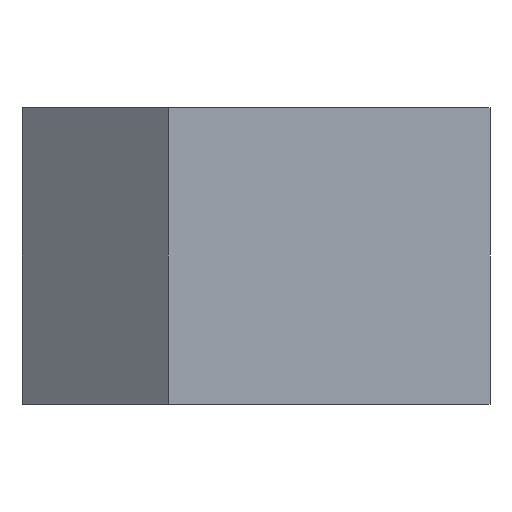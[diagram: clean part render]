
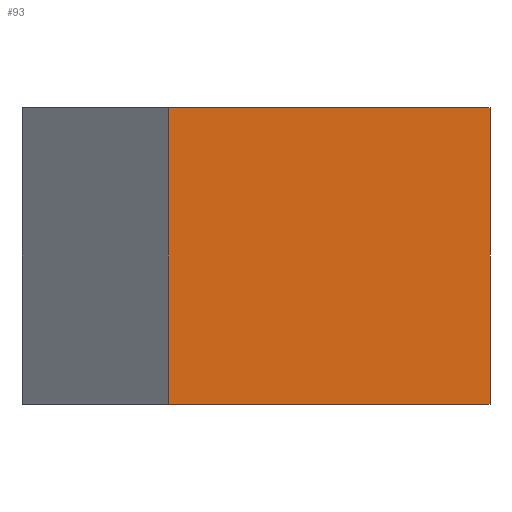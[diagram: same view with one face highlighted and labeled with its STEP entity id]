
A CAD part, left-side view. The second image highlights one B-rep face of the part: STEP entity #93.
In plain terms, the highlighted planar face has unit normal (-1, 0, 0).
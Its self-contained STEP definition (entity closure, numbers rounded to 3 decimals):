
#93=ADVANCED_FACE('',(#153),#154,.T.);
#153=FACE_OUTER_BOUND('',#225,.T.);
#154=PLANE('',#226);
#225=EDGE_LOOP('',(#420,#421,#422,#423));
#226=AXIS2_PLACEMENT_3D('',#424,#425,#426);
#420=ORIENTED_EDGE('',*,*,#585,.T.);
#421=ORIENTED_EDGE('',*,*,#566,.F.);
#422=ORIENTED_EDGE('',*,*,#586,.F.);
#423=ORIENTED_EDGE('',*,*,#583,.T.);
#424=CARTESIAN_POINT('',(-300.0,82.5,0.0));
#425=DIRECTION('',(-1.0,-0.0,0.0));
#426=DIRECTION('',(0.0,-1.0,-0.0));
#566=EDGE_CURVE('',#676,#671,#678,.T.);
#583=EDGE_CURVE('',#706,#704,#707,.T.);
#585=EDGE_CURVE('',#704,#671,#709,.T.);
#586=EDGE_CURVE('',#706,#676,#710,.T.);
#671=VERTEX_POINT('',#835);
#676=VERTEX_POINT('',#842);
#678=LINE('',#845,#846);
#704=VERTEX_POINT('',#887);
#706=VERTEX_POINT('',#890);
#707=LINE('',#891,#892);
#709=LINE('',#895,#896);
#710=LINE('',#897,#898);
#835=CARTESIAN_POINT('',(-300.0,165.0,152.0));
#842=CARTESIAN_POINT('',(-300.0,165.0,0.0));
#845=CARTESIAN_POINT('',(-300.0,165.0,0.0));
#846=VECTOR('',#1018,1.0);
#887=CARTESIAN_POINT('',(-300.0,0.0,152.0));
#890=CARTESIAN_POINT('',(-300.0,0.0,0.0));
#891=CARTESIAN_POINT('',(-300.0,0.0,0.0));
#892=VECTOR('',#1035,1.0);
#895=CARTESIAN_POINT('',(-300.0,0.0,152.0));
#896=VECTOR('',#1037,1.0);
#897=CARTESIAN_POINT('',(-300.0,0.0,0.0));
#898=VECTOR('',#1038,1.0);
#1018=DIRECTION('',(0.0,0.0,1.0));
#1035=DIRECTION('',(0.0,0.0,1.0));
#1037=DIRECTION('',(0.0,1.0,0.0));
#1038=DIRECTION('',(0.0,1.0,0.0));
